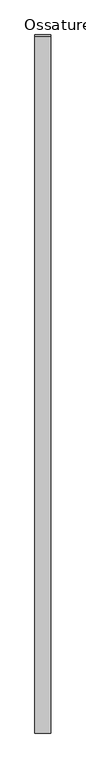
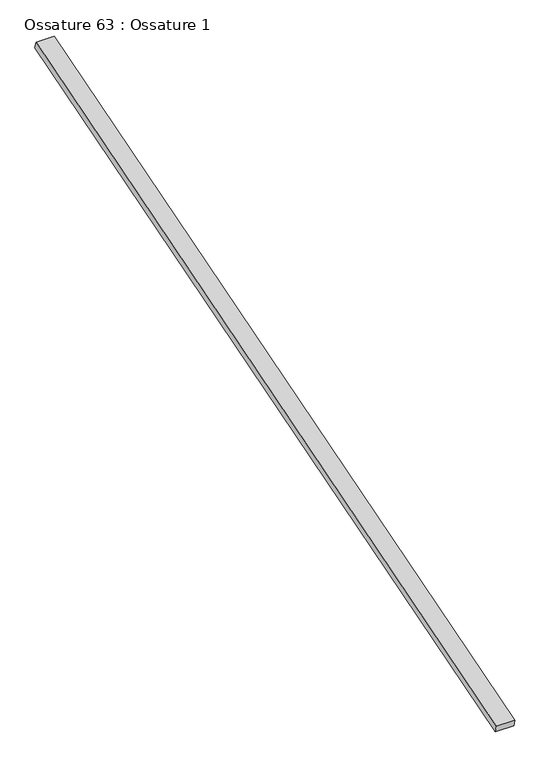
"""IFC4 building model written with IfcOpenShell, lengths in millimetres: beam geometry, Ossature 63 : Ossature 1."""

from ifc_helpers import new_model, si_unit, frame, origin, place, context, project, spatial, polyline, outline, extrude, source, transform, mapped, element, save


def ossature_63_ossature_1_e1c9cb6e(model_context):
    return source(origin(), model_context, "Body", "SweptSolid", [
        extrude(outline(polyline([(0.0, 0.0), (0.0, -4543.0299679), (-100.0, -4543.0299679), (-100.0, 0.0), (0.0, 0.0)])), frame((15297.0466393, -833.3913565, 8153.6336115), z_axis=(0.0, -0.28734788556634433, 0.9578262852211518), x_axis=(-1.0, 0.0, 0.0)), (0.0, 0.0, 1.0), 40.0),
    ])


if __name__ == "__main__":
    model = new_model("IFC4")
    model_context = context("Model", 3, world=origin())
    ifc_project = project(units=[si_unit("LENGTHUNIT", "METRE", prefix="MILLI")], contexts=[model_context])
    site = spatial("IfcSite", under=ifc_project)
    building = spatial("IfcBuilding", under=site)
    placement = place(None, origin())
    ossature_63_ossature_1_shape = ossature_63_ossature_1_e1c9cb6e(model_context)
    element("IfcBeam", 1, ObjectType="Ossature 63 : Ossature 1", at=placement, inside=building, context=model_context, shape_type="MappedRepresentation", body=[
        mapped(ossature_63_ossature_1_shape, transform((0.0, 0.0, 0.0), x_axis=(1.0, 0.0, 0.0), y_axis=(0.0, 1.0, 0.0), z_axis=(0.0, 0.0, 1.0))),
    ])
    save(model, "model.ifc")
